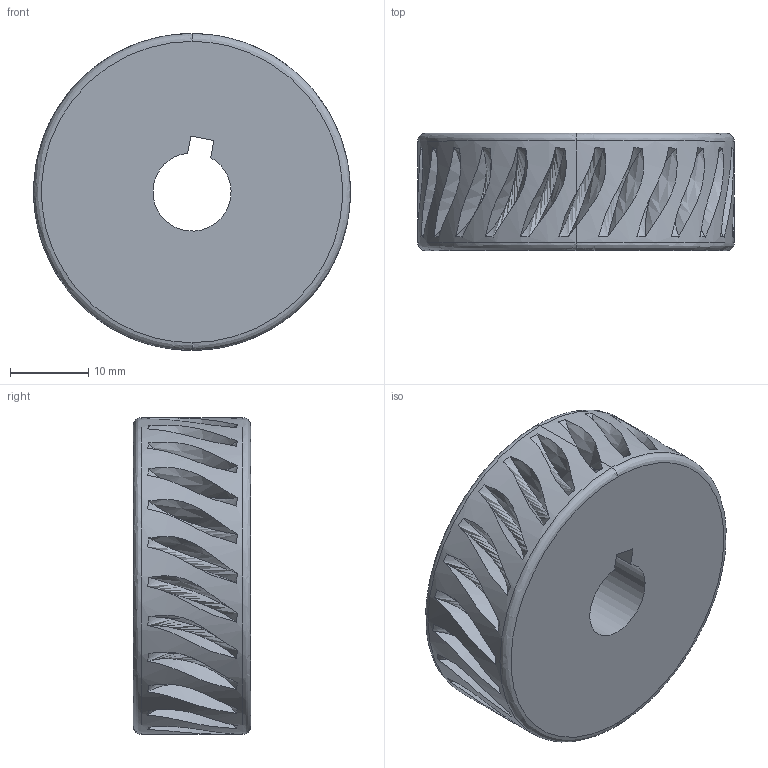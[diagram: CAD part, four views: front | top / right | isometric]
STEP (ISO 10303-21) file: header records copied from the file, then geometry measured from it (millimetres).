
FILE_DESCRIPTION (( 'STEP AP214' ), '1' );
FILE_NAME ('Roue creuse.STEP', '2005-04-06T19:57:32', ( 'frantz' ), ( '' ), 'SwSTEP 2.0', 'SolidWorks 2004104', '' );
FILE_SCHEMA (( 'AUTOMOTIVE_DESIGN' ));
Length unit declared in the file: millimetre
Products named in the file (1): Roue creuse
Bounding box: 40.5 x 15 x 40.5 mm (x, y, z)
Volume: 17013.1 mm3; surface area: 5716 mm2
Topology: 1 solids, 1 shells, 87 faces, 182 edges, 120 vertices
Faces by surface type: bspline 79, plane 5, cylinder 3
Entity records: 8108 total; most frequent: CARTESIAN_POINT 6756, ORIENTED_EDGE 364, EDGE_CURVE 182, B_SPLINE_CURVE_WITH_KNOTS 156, VERTEX_POINT 120, EDGE_LOOP 112, ADVANCED_FACE 87, FACE_OUTER_BOUND 87
